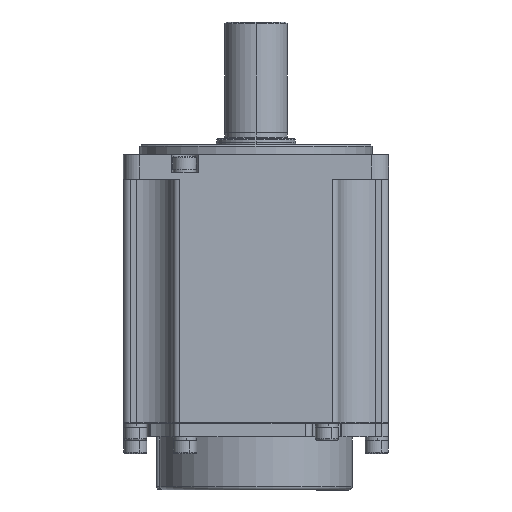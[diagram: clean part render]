
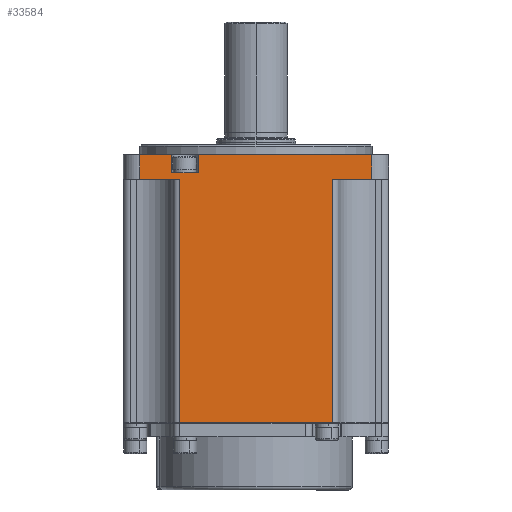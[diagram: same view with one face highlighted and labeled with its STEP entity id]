
A CAD part, front view. The second image highlights one B-rep face of the part: STEP entity #33584.
In plain terms, the highlighted planar face has unit normal (0, -1, 0).
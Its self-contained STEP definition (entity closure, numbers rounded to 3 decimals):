
#275 = CARTESIAN_POINT ( 'NONE',  ( -34.941, -39.987, 85.653 ) ) ;
#482 = EDGE_CURVE ( 'NONE', #13741, #21332, #5460, .T. ) ;
#923 = CARTESIAN_POINT ( 'NONE',  ( 23.059, -40.009, 4.753 ) ) ;
#1214 = DIRECTION ( 'NONE',  ( 0., 0., 1. ) ) ;
#1442 = CARTESIAN_POINT ( 'NONE',  ( 23.059, -40.009, 4.753 ) ) ;
#2862 = LINE ( 'NONE', #29736, #15907 ) ;
#2917 = VECTOR ( 'NONE', #1214, 1000. ) ;
#2996 = ORIENTED_EDGE ( 'NONE', *, *, #19248, .T. ) ;
#3291 = EDGE_LOOP ( 'NONE', ( #31163, #19472, #32284, #20364, #6536, #18219, #2996, #8771, #33278, #22254, #31351, #13456 ) ) ;
#3638 = CARTESIAN_POINT ( 'NONE',  ( 23.059, -40.009, 20.953 ) ) ;
#3979 = VECTOR ( 'NONE', #8193, 1000. ) ;
#4339 = VERTEX_POINT ( 'NONE', #24000 ) ;
#4421 = EDGE_CURVE ( 'NONE', #26228, #15465, #15002, .T. ) ;
#4625 = VECTOR ( 'NONE', #33042, 1000. ) ;
#4859 = CARTESIAN_POINT ( 'NONE',  ( -22.941, -39.991, 4.753 ) ) ;
#5185 = VERTEX_POINT ( 'NONE', #32332 ) ;
#5460 = LINE ( 'NONE', #5705, #11602 ) ;
#5623 = LINE ( 'NONE', #7070, #11756 ) ;
#5705 = CARTESIAN_POINT ( 'NONE',  ( -34.941, -39.987, 20.953 ) ) ;
#6536 = ORIENTED_EDGE ( 'NONE', *, *, #27328, .T. ) ;
#7010 = CARTESIAN_POINT ( 'NONE',  ( 23.059, -40.009, 78.153 ) ) ;
#7070 = CARTESIAN_POINT ( 'NONE',  ( -34.941, -39.987, 85.653 ) ) ;
#7119 = EDGE_CURVE ( 'NONE', #7825, #24644, #19307, .T. ) ;
#7455 = LINE ( 'NONE', #25909, #21320 ) ;
#7825 = VERTEX_POINT ( 'NONE', #13598 ) ;
#8193 = DIRECTION ( 'NONE',  ( 1., 0., 0. ) ) ;
#8307 = CARTESIAN_POINT ( 'NONE',  ( -17.341, -39.994, 85.653 ) ) ;
#8330 = DIRECTION ( 'NONE',  ( 0., 0., -1. ) ) ;
#8503 = VERTEX_POINT ( 'NONE', #923 ) ;
#8771 = ORIENTED_EDGE ( 'NONE', *, *, #20236, .F. ) ;
#8851 = DIRECTION ( 'NONE',  ( 0., 0., 1. ) ) ;
#9272 = EDGE_CURVE ( 'NONE', #12374, #12554, #2862, .T. ) ;
#9483 = DIRECTION ( 'NONE',  ( 0., 0., -1. ) ) ;
#9702 = DIRECTION ( 'NONE',  ( 1., 0., 0. ) ) ;
#10766 = VECTOR ( 'NONE', #19251, 1000. ) ;
#10875 = VECTOR ( 'NONE', #17044, 1000. ) ;
#11394 = LINE ( 'NONE', #7010, #19946 ) ;
#11471 = CARTESIAN_POINT ( 'NONE',  ( 35.059, -40.013, 20.953 ) ) ;
#11602 = VECTOR ( 'NONE', #8330, 1000. ) ;
#11756 = VECTOR ( 'NONE', #9702, 1000. ) ;
#12232 = CARTESIAN_POINT ( 'NONE',  ( -17.341, -39.994, 20.953 ) ) ;
#12371 = LINE ( 'NONE', #1442, #4625 ) ;
#12374 = VERTEX_POINT ( 'NONE', #4859 ) ;
#12554 = VERTEX_POINT ( 'NONE', #26596 ) ;
#13456 = ORIENTED_EDGE ( 'NONE', *, *, #32100, .F. ) ;
#13598 = CARTESIAN_POINT ( 'NONE',  ( -17.341, -39.994, 85.653 ) ) ;
#13741 = VERTEX_POINT ( 'NONE', #275 ) ;
#13946 = CARTESIAN_POINT ( 'NONE',  ( 23.059, -40.009, 20.953 ) ) ;
#14754 = EDGE_CURVE ( 'NONE', #8503, #12374, #12371, .T. ) ;
#15002 = LINE ( 'NONE', #19231, #28844 ) ;
#15465 = VERTEX_POINT ( 'NONE', #31143 ) ;
#15907 = VECTOR ( 'NONE', #27102, 1000. ) ;
#16473 = PLANE ( 'NONE',  #18826 ) ;
#16585 = DIRECTION ( 'NONE',  ( 1., 0., 0. ) ) ;
#16658 = VERTEX_POINT ( 'NONE', #21385 ) ;
#16793 = LINE ( 'NONE', #11471, #2917 ) ;
#17044 = DIRECTION ( 'NONE',  ( -1., 0., 0. ) ) ;
#17806 = LINE ( 'NONE', #19545, #10875 ) ;
#18219 = ORIENTED_EDGE ( 'NONE', *, *, #31644, .T. ) ;
#18826 = AXIS2_PLACEMENT_3D ( 'NONE', #13946, #32158, #16585 ) ;
#19231 = CARTESIAN_POINT ( 'NONE',  ( -25.341, -39.991, 20.953 ) ) ;
#19248 = EDGE_CURVE ( 'NONE', #16658, #4339, #16793, .T. ) ;
#19251 = DIRECTION ( 'NONE',  ( 0., 0., 1. ) ) ;
#19307 = LINE ( 'NONE', #12232, #32320 ) ;
#19472 = ORIENTED_EDGE ( 'NONE', *, *, #21879, .T. ) ;
#19545 = CARTESIAN_POINT ( 'NONE',  ( 23.059, -40.009, 80.153 ) ) ;
#19946 = VECTOR ( 'NONE', #25703, 1000. ) ;
#20236 = EDGE_CURVE ( 'NONE', #7825, #4339, #30855, .T. ) ;
#20364 = ORIENTED_EDGE ( 'NONE', *, *, #14754, .F. ) ;
#21320 = VECTOR ( 'NONE', #23288, 1000. ) ;
#21332 = VERTEX_POINT ( 'NONE', #23445 ) ;
#21385 = CARTESIAN_POINT ( 'NONE',  ( 35.059, -40.013, 78.153 ) ) ;
#21879 = EDGE_CURVE ( 'NONE', #21332, #12554, #7455, .T. ) ;
#22254 = ORIENTED_EDGE ( 'NONE', *, *, #29790, .T. ) ;
#22595 = CARTESIAN_POINT ( 'NONE',  ( -25.341, -39.991, 80.153 ) ) ;
#23288 = DIRECTION ( 'NONE',  ( 1., 0., 0. ) ) ;
#23445 = CARTESIAN_POINT ( 'NONE',  ( -34.941, -39.987, 78.153 ) ) ;
#24000 = CARTESIAN_POINT ( 'NONE',  ( 35.059, -40.013, 85.653 ) ) ;
#24627 = LINE ( 'NONE', #3638, #10766 ) ;
#24644 = VERTEX_POINT ( 'NONE', #27666 ) ;
#25703 = DIRECTION ( 'NONE',  ( 1., 0., 0. ) ) ;
#25909 = CARTESIAN_POINT ( 'NONE',  ( 23.059, -40.009, 78.153 ) ) ;
#26228 = VERTEX_POINT ( 'NONE', #22595 ) ;
#26596 = CARTESIAN_POINT ( 'NONE',  ( -22.941, -39.991, 78.153 ) ) ;
#27102 = DIRECTION ( 'NONE',  ( 0., 0., 1. ) ) ;
#27328 = EDGE_CURVE ( 'NONE', #8503, #5185, #24627, .T. ) ;
#27666 = CARTESIAN_POINT ( 'NONE',  ( -17.341, -39.994, 80.153 ) ) ;
#28844 = VECTOR ( 'NONE', #8851, 1000. ) ;
#29736 = CARTESIAN_POINT ( 'NONE',  ( -22.941, -39.991, 20.953 ) ) ;
#29790 = EDGE_CURVE ( 'NONE', #24644, #26228, #17806, .T. ) ;
#30611 = FACE_OUTER_BOUND ( 'NONE', #3291, .T. ) ;
#30855 = LINE ( 'NONE', #8307, #3979 ) ;
#31143 = CARTESIAN_POINT ( 'NONE',  ( -25.341, -39.991, 85.653 ) ) ;
#31163 = ORIENTED_EDGE ( 'NONE', *, *, #482, .T. ) ;
#31351 = ORIENTED_EDGE ( 'NONE', *, *, #4421, .T. ) ;
#31644 = EDGE_CURVE ( 'NONE', #5185, #16658, #11394, .T. ) ;
#32100 = EDGE_CURVE ( 'NONE', #13741, #15465, #5623, .T. ) ;
#32158 = DIRECTION ( 'NONE',  ( 0., -1., 0. ) ) ;
#32284 = ORIENTED_EDGE ( 'NONE', *, *, #9272, .F. ) ;
#32320 = VECTOR ( 'NONE', #9483, 1000. ) ;
#32332 = CARTESIAN_POINT ( 'NONE',  ( 23.059, -40.009, 78.153 ) ) ;
#33042 = DIRECTION ( 'NONE',  ( -1., 0., 0. ) ) ;
#33278 = ORIENTED_EDGE ( 'NONE', *, *, #7119, .T. ) ;
#33584 = ADVANCED_FACE ( 'NONE', ( #30611 ), #16473, .T. ) ;
